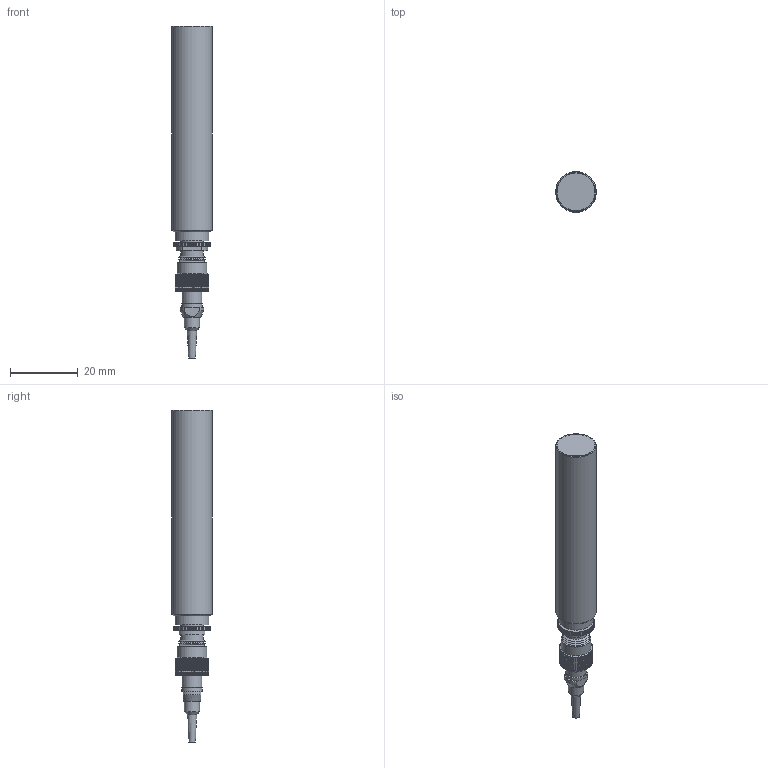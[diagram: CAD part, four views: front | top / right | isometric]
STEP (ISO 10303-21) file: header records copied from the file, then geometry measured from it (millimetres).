
FILE_DESCRIPTION(/* description */ (''),/* implementation_level */ '2;1');
FILE_NAME(/* name */ 'K:\ME\CAD Daten\IFS2404\IFS2404-2\IFS240-2(001).stp',/* time_stamp */ '2018-08-29T08:28:29+02:00',/* author */ ('sven'),/* organization */ (''),/* preprocessor_version */ 'ST-DEVELOPER v16.13',/* originating_system */ 'Autodesk Inventor 2018',/* authorisation */ '');
FILE_SCHEMA (('AUTOMOTIVE_DESIGN { 1 0 10303 214 3 1 1 }'));
Length unit declared in the file: millimetre
Products named in the file (12): RPO_variante_mit_Faser; 10.10213_Gehäuse; FOA-019; FOA-019_1; stecker_komplett; plugFrame; stop-ring_fürVAC; faserferrule8°; couplingnut; rubber_boot; 10.10214_Steckergehäuse; Linse
Assembly tree (11 placements, depth 3):
  RPO_variante_mit_Faser
    10.10213_Gehäuse
    FOA-019
      FOA-019_1
    stecker_komplett
      plugFrame
      stop-ring_fürVAC
      faserferrule8°
      couplingnut
      rubber_boot
    10.10214_Steckergehäuse
    Linse
Bounding box: 12 x 12 x 98.32 mm (x, y, z)
Volume: 4948.3 mm3; surface area: 9245 mm2
Topology: 9 solids, 9 shells, 535 faces, 1475 edges, 975 vertices
Faces by surface type: plane 271, cylinder 217, cone 46, torus 1
Full cylindrical faces by diameter (mm): 1 x1, 1.2 x1, 2.5 x4, 2.54 x1, 2.6 x1, 3 x2, 3.962 x2, 4.5 x2, 4.9 x2, 5.44 x1, 5.5 x1, 5.9 x2, 5.969 x1, 6 x1, 6.24 x1, 6.3 x1, 6.5 x1, 6.731 x2, 6.9 x1, 8 x2, 8.2 x1, 8.5 x1, 8.8 x1, 10 x2, 11.2 x2, 12 x1
Entity records: 19057 total; most frequent: CARTESIAN_POINT 5261, ORIENTED_EDGE 2786, DIRECTION 2750, EDGE_CURVE 1393, VERTEX_POINT 959, AXIS2_PLACEMENT_3D 942, LINE 866, VECTOR 866
